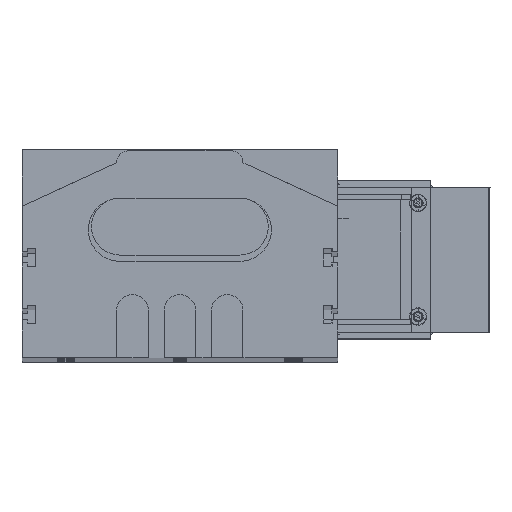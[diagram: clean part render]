
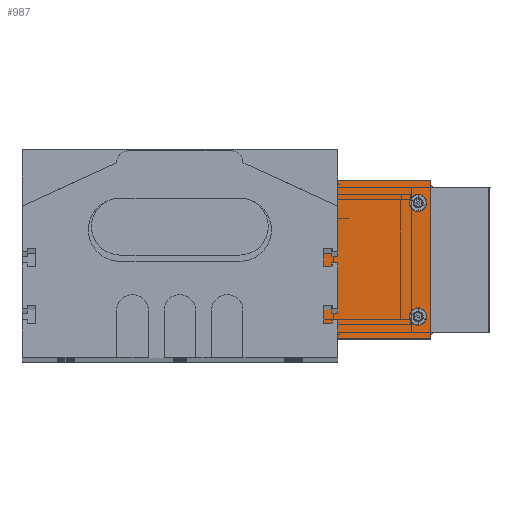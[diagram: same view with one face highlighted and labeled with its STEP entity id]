
A CAD part, top view. The second image highlights one B-rep face of the part: STEP entity #987.
In plain terms, the highlighted planar face has unit normal (0, 0, 1) as drawn and (0, -1, 0) by its records, which use the part's own axes.
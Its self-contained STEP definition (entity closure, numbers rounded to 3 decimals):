
#761 = VERTEX_POINT ( 'NONE', #22772 ) ;
#772 = VERTEX_POINT ( 'NONE', #23089 ) ;
#838 = VERTEX_POINT ( 'NONE', #23161 ) ;
#874 = EDGE_CURVE ( 'NONE', #761, #772, #23239, .T. ) ;
#901 = EDGE_CURVE ( 'NONE', #926, #950, #23370, .T. ) ;
#912 = EDGE_CURVE ( 'NONE', #928, #944, #23368, .T. ) ;
#926 = VERTEX_POINT ( 'NONE', #23432 ) ;
#928 = VERTEX_POINT ( 'NONE', #23431 ) ;
#938 = VERTEX_POINT ( 'NONE', #23421 ) ;
#940 = EDGE_CURVE ( 'NONE', #772, #761, #23480, .T. ) ;
#944 = VERTEX_POINT ( 'NONE', #23472 ) ;
#945 = EDGE_CURVE ( 'NONE', #944, #928, #23406, .T. ) ;
#950 = VERTEX_POINT ( 'NONE', #23466 ) ;
#952 = EDGE_LOOP ( 'NONE', ( #1040, #1030, #1037, #1019 ) ) ;
#961 = EDGE_CURVE ( 'NONE', #950, #926, #23465, .T. ) ;
#971 = EDGE_CURVE ( 'NONE', #938, #838, #23482, .T. ) ;
#984 = EDGE_LOOP ( 'NONE', ( #1136, #1055 ) ) ;
#987 = ADVANCED_FACE ( 'NONE', ( #23516, #23523, #23526, #23542, #23525 ), #23524, .F. ) ;
#989 = EDGE_CURVE ( 'NONE', #1008, #990, #23522, .T. ) ;
#990 = VERTEX_POINT ( 'NONE', #23578 ) ;
#1008 = VERTEX_POINT ( 'NONE', #23630 ) ;
#1011 = EDGE_CURVE ( 'NONE', #1042, #1022, #23619, .T. ) ;
#1017 = ORIENTED_EDGE ( 'NONE', *, *, #1024, .F. ) ;
#1019 = ORIENTED_EDGE ( 'NONE', *, *, #989, .F. ) ;
#1022 = VERTEX_POINT ( 'NONE', #23607 ) ;
#1024 = EDGE_CURVE ( 'NONE', #838, #938, #23022, .T. ) ;
#1026 = EDGE_CURVE ( 'NONE', #1022, #1008, #23660, .T. ) ;
#1030 = ORIENTED_EDGE ( 'NONE', *, *, #1011, .F. ) ;
#1031 = EDGE_CURVE ( 'NONE', #990, #1042, #23649, .T. ) ;
#1037 = ORIENTED_EDGE ( 'NONE', *, *, #1031, .F. ) ;
#1040 = ORIENTED_EDGE ( 'NONE', *, *, #1026, .F. ) ;
#1042 = VERTEX_POINT ( 'NONE', #23635 ) ;
#1055 = ORIENTED_EDGE ( 'NONE', *, *, #961, .F. ) ;
#1071 = ORIENTED_EDGE ( 'NONE', *, *, #945, .F. ) ;
#1077 = EDGE_LOOP ( 'NONE', ( #1071, #1586 ) ) ;
#1130 = EDGE_LOOP ( 'NONE', ( #1131, #1133 ) ) ;
#1131 = ORIENTED_EDGE ( 'NONE', *, *, #940, .F. ) ;
#1132 = EDGE_LOOP ( 'NONE', ( #1017, #1134 ) ) ;
#1133 = ORIENTED_EDGE ( 'NONE', *, *, #874, .F. ) ;
#1134 = ORIENTED_EDGE ( 'NONE', *, *, #971, .F. ) ;
#1136 = ORIENTED_EDGE ( 'NONE', *, *, #901, .F. ) ;
#1586 = ORIENTED_EDGE ( 'NONE', *, *, #912, .F. ) ;
#22234 = DIRECTION ( 'NONE',  ( 0., -1., 0. ) ) ;
#22506 = DIRECTION ( 'NONE',  ( 0., 0., -1. ) ) ;
#22763 = CARTESIAN_POINT ( 'NONE',  ( -39., -2., -10. ) ) ;
#22772 = CARTESIAN_POINT ( 'NONE',  ( -39., -2., 12.75 ) ) ;
#22779 = AXIS2_PLACEMENT_3D ( 'NONE', #22763, #22234, #22506 ) ;
#23022 = CIRCLE ( 'NONE', #22779, 2.75 ) ;
#23089 = CARTESIAN_POINT ( 'NONE',  ( -39., -2., 7.25 ) ) ;
#23161 = CARTESIAN_POINT ( 'NONE',  ( -39., -2., -12.75 ) ) ;
#23239 = CIRCLE ( 'NONE', #23252, 2.75 ) ;
#23244 = CARTESIAN_POINT ( 'NONE',  ( -39., -2., 10. ) ) ;
#23247 = DIRECTION ( 'NONE',  ( 0., -1., 0. ) ) ;
#23252 = AXIS2_PLACEMENT_3D ( 'NONE', #23244, #23247, #23297 ) ;
#23297 = DIRECTION ( 'NONE',  ( 0., 0., -1. ) ) ;
#23355 = DIRECTION ( 'NONE',  ( 0., 0., -1. ) ) ;
#23357 = DIRECTION ( 'NONE',  ( 0., -1., 0. ) ) ;
#23364 = CARTESIAN_POINT ( 'NONE',  ( 20.2, -2., -18. ) ) ;
#23367 = AXIS2_PLACEMENT_3D ( 'NONE', #23364, #23357, #23355 ) ;
#23368 = CIRCLE ( 'NONE', #23395, 2.75 ) ;
#23370 = CIRCLE ( 'NONE', #23367, 2.75 ) ;
#23390 = DIRECTION ( 'NONE',  ( 0., 0., -1. ) ) ;
#23391 = DIRECTION ( 'NONE',  ( 0., -1., 0. ) ) ;
#23395 = AXIS2_PLACEMENT_3D ( 'NONE', #23402, #23391, #23390 ) ;
#23402 = CARTESIAN_POINT ( 'NONE',  ( 20.2, -2., 18. ) ) ;
#23406 = CIRCLE ( 'NONE', #23455, 2.75 ) ;
#23421 = CARTESIAN_POINT ( 'NONE',  ( -39., -2., -7.25 ) ) ;
#23422 = CARTESIAN_POINT ( 'NONE',  ( -39., -2., 10. ) ) ;
#23431 = CARTESIAN_POINT ( 'NONE',  ( 20.2, -2., 20.75 ) ) ;
#23432 = CARTESIAN_POINT ( 'NONE',  ( 20.2, -2., -20.75 ) ) ;
#23444 = CARTESIAN_POINT ( 'NONE',  ( 20.2, -2., -18. ) ) ;
#23450 = AXIS2_PLACEMENT_3D ( 'NONE', #23444, #23502, #23501 ) ;
#23451 = DIRECTION ( 'NONE',  ( 0., 0., -1. ) ) ;
#23453 = DIRECTION ( 'NONE',  ( 0., -1., 0. ) ) ;
#23454 = CARTESIAN_POINT ( 'NONE',  ( 20.2, -2., 18. ) ) ;
#23455 = AXIS2_PLACEMENT_3D ( 'NONE', #23454, #23453, #23451 ) ;
#23462 = AXIS2_PLACEMENT_3D ( 'NONE', #23486, #23487, #23554 ) ;
#23465 = CIRCLE ( 'NONE', #23450, 2.75 ) ;
#23466 = CARTESIAN_POINT ( 'NONE',  ( 20.2, -2., -15.25 ) ) ;
#23472 = CARTESIAN_POINT ( 'NONE',  ( 20.2, -2., 15.25 ) ) ;
#23477 = DIRECTION ( 'NONE',  ( 0., 0., -1. ) ) ;
#23478 = DIRECTION ( 'NONE',  ( 0., -1., 0. ) ) ;
#23479 = AXIS2_PLACEMENT_3D ( 'NONE', #23422, #23478, #23477 ) ;
#23480 = CIRCLE ( 'NONE', #23479, 2.75 ) ;
#23482 = CIRCLE ( 'NONE', #23462, 2.75 ) ;
#23486 = CARTESIAN_POINT ( 'NONE',  ( -39., -2., -10. ) ) ;
#23487 = DIRECTION ( 'NONE',  ( 0., -1., 0. ) ) ;
#23501 = DIRECTION ( 'NONE',  ( 0., 0., -1. ) ) ;
#23502 = DIRECTION ( 'NONE',  ( 0., -1., 0. ) ) ;
#23511 = AXIS2_PLACEMENT_3D ( 'NONE', #23585, #23584, #23583 ) ;
#23516 = FACE_OUTER_BOUND ( 'NONE', #952, .T. ) ;
#23522 = LINE ( 'NONE', #23577, #23575 ) ;
#23523 = FACE_BOUND ( 'NONE', #1130, .T. ) ;
#23524 = PLANE ( 'NONE',  #23511 ) ;
#23525 = FACE_BOUND ( 'NONE', #1077, .T. ) ;
#23526 = FACE_BOUND ( 'NONE', #1132, .T. ) ;
#23542 = FACE_BOUND ( 'NONE', #984, .T. ) ;
#23554 = DIRECTION ( 'NONE',  ( 0., 0., -1. ) ) ;
#23574 = DIRECTION ( 'NONE',  ( -1., 0., 0. ) ) ;
#23575 = VECTOR ( 'NONE', #23574, 1000. ) ;
#23577 = CARTESIAN_POINT ( 'NONE',  ( 37., -2., -25. ) ) ;
#23578 = CARTESIAN_POINT ( 'NONE',  ( -42., -2., -25. ) ) ;
#23583 = DIRECTION ( 'NONE',  ( 0., 0., 1. ) ) ;
#23584 = DIRECTION ( 'NONE',  ( 0., 1., 0. ) ) ;
#23585 = CARTESIAN_POINT ( 'NONE',  ( 37., -2., -25. ) ) ;
#23607 = CARTESIAN_POINT ( 'NONE',  ( 24., -2., 25. ) ) ;
#23611 = DIRECTION ( 'NONE',  ( 1., 0., 0. ) ) ;
#23612 = VECTOR ( 'NONE', #23611, 1000. ) ;
#23619 = LINE ( 'NONE', #23621, #23612 ) ;
#23621 = CARTESIAN_POINT ( 'NONE',  ( -37., -2., 25. ) ) ;
#23630 = CARTESIAN_POINT ( 'NONE',  ( 24., -2., -25. ) ) ;
#23635 = CARTESIAN_POINT ( 'NONE',  ( -42., -2., 25. ) ) ;
#23639 = DIRECTION ( 'NONE',  ( 0., 0., 1. ) ) ;
#23641 = VECTOR ( 'NONE', #23639, 1000. ) ;
#23642 = CARTESIAN_POINT ( 'NONE',  ( -42., -2., -25. ) ) ;
#23649 = LINE ( 'NONE', #23642, #23641 ) ;
#23657 = DIRECTION ( 'NONE',  ( 0., 0., -1. ) ) ;
#23658 = VECTOR ( 'NONE', #23657, 1000. ) ;
#23659 = CARTESIAN_POINT ( 'NONE',  ( 24., -2., 25. ) ) ;
#23660 = LINE ( 'NONE', #23659, #23658 ) ;
